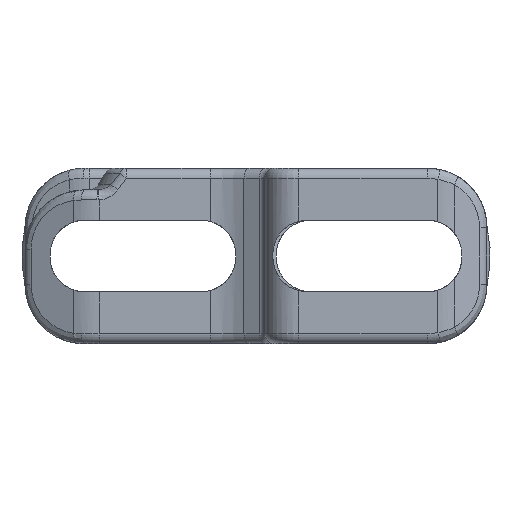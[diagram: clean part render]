
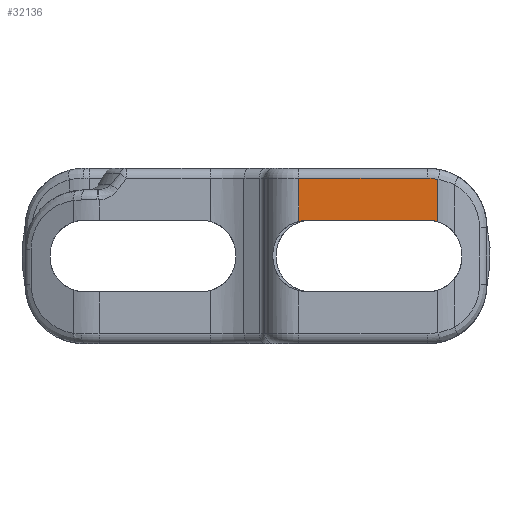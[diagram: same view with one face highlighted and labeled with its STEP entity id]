
A CAD part, left-side view. The second image highlights one B-rep face of the part: STEP entity #32136.
In plain terms, the highlighted planar face has unit normal (-1, 0, 0).
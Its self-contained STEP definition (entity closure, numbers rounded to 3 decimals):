
#1=CARTESIAN_POINT('',(-76.15,-3.8,0.1));
#2=DIRECTION('',(-1.,0.,0.));
#3=DIRECTION('',(0.,0.,1.));
#4=AXIS2_PLACEMENT_3D('',#1,#2,#3);
#6=DIRECTION('',(0.,0.,-1.));
#7=VECTOR('',#6,3.184);
#8=CARTESIAN_POINT('',(-76.15,-3.15,5.75));
#9=LINE('',#8,#7);
#10=DIRECTION('',(0.,1.,0.));
#11=VECTOR('',#10,9.55);
#12=CARTESIAN_POINT('',(-76.15,-12.7,5.75));
#13=LINE('',#12,#11);
#14=CARTESIAN_POINT('',(-76.15,-12.7,2.1));
#15=DIRECTION('',(-1.,0.,0.));
#16=DIRECTION('',(0.,-0.212,0.977));
#17=AXIS2_PLACEMENT_3D('',#14,#15,#16);
#19=DIRECTION('',(0.,0.,1.));
#20=VECTOR('',#19,3.137);
#21=CARTESIAN_POINT('',(-76.15,-13.475,2.529));
#22=LINE('',#21,#20);
#23=CARTESIAN_POINT('',(-76.15,-12.7,0.1));
#24=DIRECTION('',(1.,0.,0.));
#25=DIRECTION('',(0.,0.,1.));
#26=AXIS2_PLACEMENT_3D('',#23,#24,#25);
#103=DIRECTION('',(0.,-1.,0.));
#104=VECTOR('',#103,8.9);
#105=CARTESIAN_POINT('',(-76.15,-3.8,2.65));
#106=LINE('',#105,#104);
#233=CARTESIAN_POINT('',(-76.15,-13.475,5.667));
#27398=CARTESIAN_POINT('',(-76.15,-3.15,5.75));
#27400=VERTEX_POINT('',#27398);
#27495=VERTEX_POINT('',#233);
#27497=CARTESIAN_POINT('',(-76.15,-12.7,5.75));
#27498=VERTEX_POINT('',#27497);
#29642=CARTESIAN_POINT('',(-76.15,-12.7,2.65));
#29643=CARTESIAN_POINT('',(-76.15,-13.475,2.529));
#29644=VERTEX_POINT('',#29642);
#29645=VERTEX_POINT('',#29643);
#30604=CARTESIAN_POINT('',(-76.15,-3.8,2.65));
#30605=CARTESIAN_POINT('',(-76.15,-3.15,2.566));
#30606=VERTEX_POINT('',#30604);
#30607=VERTEX_POINT('',#30605);
#32115=CARTESIAN_POINT('',(-76.15,0.,0.));
#32116=DIRECTION('',(1.,0.,0.));
#32117=DIRECTION('',(0.,-1.,0.));
#32118=AXIS2_PLACEMENT_3D('',#32115,#32116,#32117);
#32119=PLANE('',#32118);
#32121=ORIENTED_EDGE('',*,*,#32120,.T.);
#32123=ORIENTED_EDGE('',*,*,#32122,.F.);
#32125=ORIENTED_EDGE('',*,*,#32124,.F.);
#32127=ORIENTED_EDGE('',*,*,#32126,.F.);
#32129=ORIENTED_EDGE('',*,*,#32128,.F.);
#32131=ORIENTED_EDGE('',*,*,#32130,.F.);
#32133=ORIENTED_EDGE('',*,*,#32132,.F.);
#32134=EDGE_LOOP('',(#32121,#32123,#32125,#32127,#32129,#32131,#32133));
#32135=FACE_OUTER_BOUND('',#32134,.F.);
#32136=ADVANCED_FACE('',(#32135),#32119,.F.);
#5=CIRCLE('',#4,2.55);
#18=CIRCLE('',#17,3.65);
#27=CIRCLE('',#26,2.55);
#32120=EDGE_CURVE('',#30606,#30607,#5,.T.);
#32122=EDGE_CURVE('',#27400,#30607,#9,.T.);
#32124=EDGE_CURVE('',#27498,#27400,#13,.T.);
#32126=EDGE_CURVE('',#27495,#27498,#18,.T.);
#32128=EDGE_CURVE('',#29645,#27495,#22,.T.);
#32130=EDGE_CURVE('',#29644,#29645,#27,.T.);
#32132=EDGE_CURVE('',#30606,#29644,#106,.T.);
